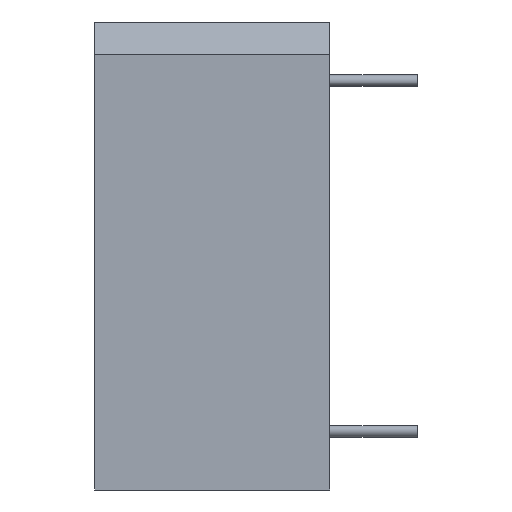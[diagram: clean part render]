
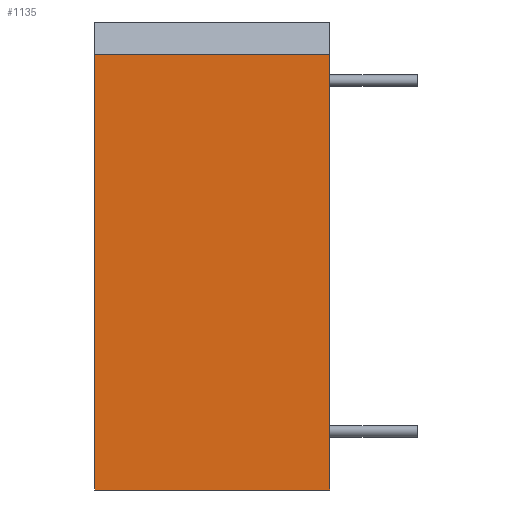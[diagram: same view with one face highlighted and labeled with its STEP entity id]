
A CAD part, left-side view. The second image highlights one B-rep face of the part: STEP entity #1135.
In plain terms, the highlighted planar face has unit normal (-1, 0, 0).
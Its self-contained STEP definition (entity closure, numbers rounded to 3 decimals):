
#55 = DIRECTION ( 'NONE',  ( 0., 0., 1. ) ) ;
#68 = CARTESIAN_POINT ( 'NONE',  ( -15.9, 10.2, -10.15 ) ) ;
#147 = DIRECTION ( 'NONE',  ( 0., -1., 0. ) ) ;
#154 = LINE ( 'NONE', #552, #953 ) ;
#167 = VERTEX_POINT ( 'NONE', #232 ) ;
#174 = EDGE_LOOP ( 'NONE', ( #810, #871, #250, #227 ) ) ;
#227 = ORIENTED_EDGE ( 'NONE', *, *, #663, .T. ) ;
#232 = CARTESIAN_POINT ( 'NONE',  ( -15.9, 10.2, 8.75 ) ) ;
#249 = VECTOR ( 'NONE', #482, 1000. ) ;
#250 = ORIENTED_EDGE ( 'NONE', *, *, #462, .F. ) ;
#289 = VERTEX_POINT ( 'NONE', #1154 ) ;
#359 = LINE ( 'NONE', #764, #1153 ) ;
#373 = DIRECTION ( 'NONE',  ( 0., -1., 0. ) ) ;
#459 = LINE ( 'NONE', #995, #1220 ) ;
#462 = EDGE_CURVE ( 'NONE', #1178, #167, #804, .T. ) ;
#482 = DIRECTION ( 'NONE',  ( 0., 0., 1. ) ) ;
#552 = CARTESIAN_POINT ( 'NONE',  ( -15.9, 0., -10.15 ) ) ;
#618 = EDGE_CURVE ( 'NONE', #167, #664, #459, .T. ) ;
#663 = EDGE_CURVE ( 'NONE', #1178, #289, #359, .T. ) ;
#664 = VERTEX_POINT ( 'NONE', #688 ) ;
#676 = EDGE_CURVE ( 'NONE', #289, #664, #154, .T. ) ;
#688 = CARTESIAN_POINT ( 'NONE',  ( -15.9, 0., 8.75 ) ) ;
#764 = CARTESIAN_POINT ( 'NONE',  ( -15.9, 10.2, -10.15 ) ) ;
#804 = LINE ( 'NONE', #68, #249 ) ;
#810 = ORIENTED_EDGE ( 'NONE', *, *, #676, .T. ) ;
#813 = DIRECTION ( 'NONE',  ( 0., 0., -1. ) ) ;
#820 = PLANE ( 'NONE',  #1242 ) ;
#871 = ORIENTED_EDGE ( 'NONE', *, *, #618, .F. ) ;
#953 = VECTOR ( 'NONE', #55, 1000. ) ;
#995 = CARTESIAN_POINT ( 'NONE',  ( -15.9, 10.2, 8.75 ) ) ;
#1032 = FACE_OUTER_BOUND ( 'NONE', #174, .T. ) ;
#1039 = CARTESIAN_POINT ( 'NONE',  ( -15.9, 10.2, -10.15 ) ) ;
#1135 = ADVANCED_FACE ( 'NONE', ( #1032 ), #820, .F. ) ;
#1145 = CARTESIAN_POINT ( 'NONE',  ( -15.9, 10.2, -10.15 ) ) ;
#1153 = VECTOR ( 'NONE', #373, 1000. ) ;
#1154 = CARTESIAN_POINT ( 'NONE',  ( -15.9, 0., -10.15 ) ) ;
#1178 = VERTEX_POINT ( 'NONE', #1039 ) ;
#1220 = VECTOR ( 'NONE', #147, 1000. ) ;
#1227 = DIRECTION ( 'NONE',  ( 1., 0., 0. ) ) ;
#1242 = AXIS2_PLACEMENT_3D ( 'NONE', #1145, #1227, #813 ) ;
